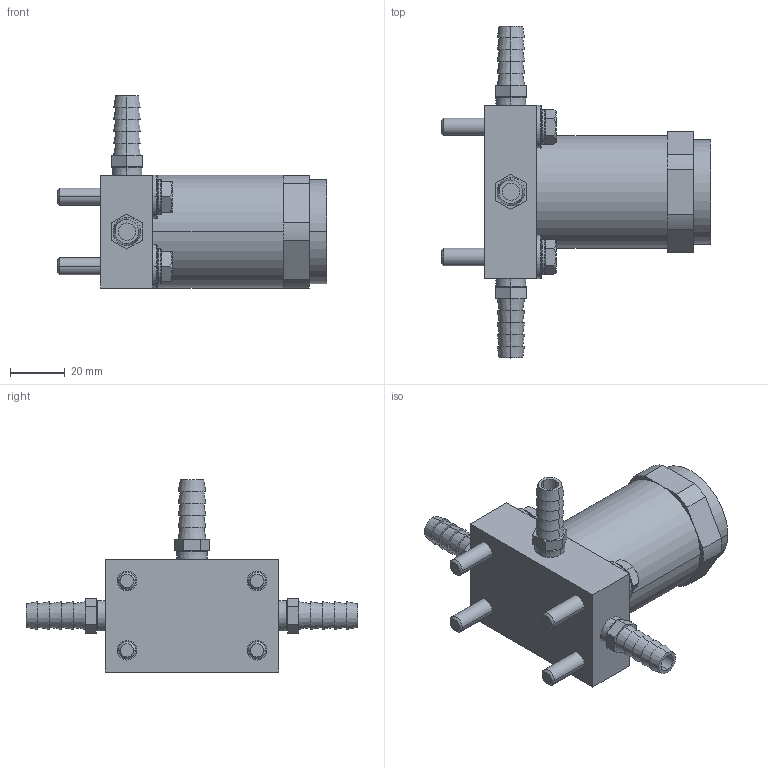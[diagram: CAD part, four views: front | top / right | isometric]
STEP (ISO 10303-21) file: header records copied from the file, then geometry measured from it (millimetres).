
FILE_DESCRIPTION((''),'2;1');
FILE_NAME('UL4_ASM','2017-08-24T',('jennifer.elliott'),('CenterLine (Windsor) Ltd - Automation Components Division'),'PRO/ENGINEER BY PARAMETRIC TECHNOLOGY CORPORATION, 2015030','PRO/ENGINEER BY PARAMETRIC TECHNOLOGY CORPORATION, 2015030','');
FILE_SCHEMA(('AUTOMOTIVE_DESIGN { 1 0 10303 214 1 1 1 1 }'));
Length unit declared in the file: inch
Products named in the file (17): PRT0640; PRT0641; PRT0642; PRT0643; PRT0644; PRT0645; PRT0646; PRT0647; PRT0648; PRT0649; PRT0650; ASM0006_ASM; PRT0651; PRT0652; PRT0653; TMP_DWG-3DSOLID_88; UL4_ASM
Assembly tree (16 placements, depth 3):
  UL4_ASM
    PRT0640
    PRT0641
    PRT0642
    PRT0643
    PRT0644
    PRT0645
    PRT0646
    ASM0006_ASM
      PRT0647
      PRT0648
      PRT0649
      PRT0650
    PRT0651
    PRT0652
    PRT0653
    TMP_DWG-3DSOLID_88
Bounding box: 98.42 x 121.41 x 70.23 mm (x, y, z)
Volume: 143532 mm3; surface area: 38585.3 mm2
Topology: 15 solids, 15 shells, 269 faces, 634 edges, 420 vertices
Faces by surface type: plane 119, cone 68, cylinder 58, torus 24
Entity records: 9248 total; most frequent: CARTESIAN_POINT 1858, DIRECTION 1458, ORIENTED_EDGE 1268, EDGE_CURVE 634, AXIS2_PLACEMENT_3D 606, VERTEX_POINT 420, EDGE_LOOP 316, CIRCLE 300
